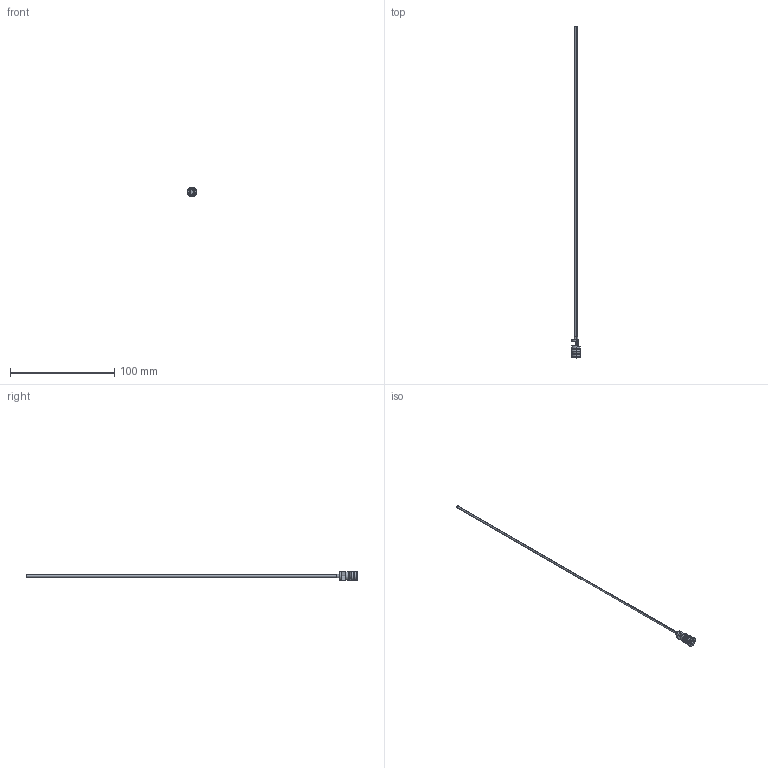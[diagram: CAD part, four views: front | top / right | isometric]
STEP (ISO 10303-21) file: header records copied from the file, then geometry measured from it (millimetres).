
FILE_DESCRIPTION (( 'STEP AP203' ), '1' );
FILE_NAME ('RF-8Fx300-2.STEP', '2015-11-25T08:45:42', ( 'Balzi' ), ( '' ), 'SwSTEP 2.0', 'SolidWorks 2015', '' );
FILE_SCHEMA (( 'CONFIG_CONTROL_DESIGN' ));
Length unit declared in the file: millimetre
Products named in the file (1): RF-8Fx300-2
Bounding box: 9 x 318 x 9 mm (x, y, z)
Volume: 1070.8 mm3; surface area: 4110.8 mm2
Topology: 1 solids, 1 shells, 77 faces, 176 edges, 108 vertices
Faces by surface type: cylinder 28, plane 25, torus 12, cone 12
Entity records: 2268 total; most frequent: DIRECTION 419, CARTESIAN_POINT 381, ORIENTED_EDGE 352, EDGE_CURVE 176, AXIS2_PLACEMENT_3D 170, VERTEX_POINT 108, CIRCLE 92, EDGE_LOOP 86
